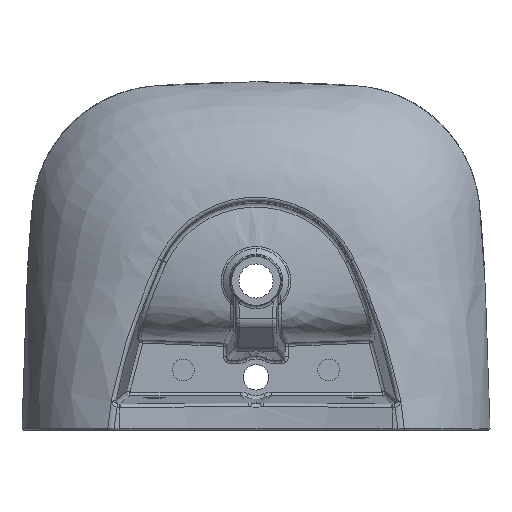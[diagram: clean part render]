
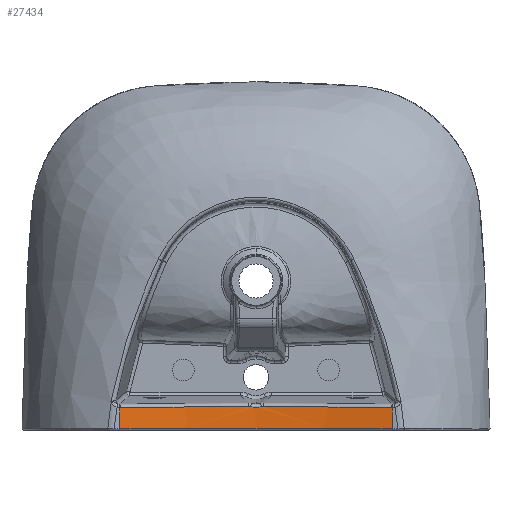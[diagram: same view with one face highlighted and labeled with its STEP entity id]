
A CAD part, front view. The second image highlights one B-rep face of the part: STEP entity #27434.
In plain terms, the highlighted cylindrical face has radius 953.69 mm (diameter 1907.38 mm), a partial arc.
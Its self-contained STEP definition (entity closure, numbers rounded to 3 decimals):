
#1739 = CARTESIAN_POINT ( 'NONE',  ( 9.143, -130.043, -172.836 ) ) ;
#2282 = CARTESIAN_POINT ( 'NONE',  ( 10.068, -130.053, -172.837 ) ) ;
#2714 =( BOUNDED_CURVE ( )  B_SPLINE_CURVE ( 3, ( #32044, #4303, #22928, #23516 ),
 .UNSPECIFIED., .F., .T. ) 
 B_SPLINE_CURVE_WITH_KNOTS ( ( 4, 4 ),
 ( 0.011, 0.197 ),
 .UNSPECIFIED. ) 
 CURVE ( )  GEOMETRIC_REPRESENTATION_ITEM ( )  RATIONAL_B_SPLINE_CURVE ( ( 1., 0.997, 0.997, 1. ) ) 
 REPRESENTATION_ITEM ( '' )  );
#2972 = EDGE_LOOP ( 'NONE', ( #4999, #37425, #39023, #32592, #21793, #16921, #32067, #32504, #19957, #27672 ) ) ;
#3002 = VERTEX_POINT ( 'NONE', #23669 ) ;
#4303 = CARTESIAN_POINT ( 'NONE',  ( -69.416, -130.68, -172.892 ) ) ;
#4353 = LINE ( 'NONE', #32287, #25258 ) ;
#4457 = DIRECTION ( 'NONE',  ( 0., 0., 1. ) ) ;
#4673 = EDGE_CURVE ( 'NONE', #21623, #23880, #11520, .T. ) ;
#4973 = CARTESIAN_POINT ( 'NONE',  ( 8.227, -130.035, -172.918 ) ) ;
#4999 = ORIENTED_EDGE ( 'NONE', *, *, #10121, .T. ) ;
#5095 = DIRECTION ( 'NONE',  ( 0., 0., -1. ) ) ;
#5171 = CARTESIAN_POINT ( 'NONE',  ( -186.654, -148.444, -174.454 ) ) ;
#5253 = B_SPLINE_CURVE_WITH_KNOTS ( 'NONE', 3,
 ( #5171, #29667, #17735, #39388 ),
 .UNSPECIFIED., .F., .F.,
 ( 4, 4 ),
 ( 0., 0. ),
 .UNSPECIFIED. ) ;
#7501 = CARTESIAN_POINT ( 'NONE',  ( 187.143, -148.542, -205.005 ) ) ;
#7741 = VERTEX_POINT ( 'NONE', #12158 ) ;
#7752 = FACE_OUTER_BOUND ( 'NONE', #2972, .T. ) ;
#8622 = CARTESIAN_POINT ( 'NONE',  ( 7.317, -130.028, -173.084 ) ) ;
#8623 = AXIS2_PLACEMENT_3D ( 'NONE', #23335, #32255, #29409 ) ;
#9655 = CARTESIAN_POINT ( 'NONE',  ( 7.317, -130.028, -173.084 ) ) ;
#10121 = EDGE_CURVE ( 'NONE', #3002, #16384, #4353, .T. ) ;
#11520 = LINE ( 'NONE', #7501, #16821 ) ;
#11620 = EDGE_CURVE ( 'NONE', #32940, #25877, #2714, .T. ) ;
#12158 = CARTESIAN_POINT ( 'NONE',  ( -7.317, -130.028, -173.084 ) ) ;
#12364 = CARTESIAN_POINT ( 'NONE',  ( 187.143, -148.542, -174.451 ) ) ;
#12419 = EDGE_CURVE ( 'NONE', #21846, #38950, #32743, .T. ) ;
#13255 = CARTESIAN_POINT ( 'NONE',  ( -8.227, -130.035, -172.918 ) ) ;
#13515 = B_SPLINE_CURVE_WITH_KNOTS ( 'NONE', 3,
 ( #31878, #13255, #25997, #34511 ),
 .UNSPECIFIED., .F., .F.,
 ( 4, 4 ),
 ( 0., 0.003 ),
 .UNSPECIFIED. ) ;
#13728 = CARTESIAN_POINT ( 'NONE',  ( 0., -129.991, -173.96 ) ) ;
#13928 = CARTESIAN_POINT ( 'NONE',  ( 7.317, -130.028, -173.084 ) ) ;
#14025 = CARTESIAN_POINT ( 'NONE',  ( 0., -1083.69, -203. ) ) ;
#15722 = CARTESIAN_POINT ( 'NONE',  ( 128.449, -136.828, -173.432 ) ) ;
#15996 = CARTESIAN_POINT ( 'NONE',  ( -10.068, -130.053, -172.837 ) ) ;
#16384 = VERTEX_POINT ( 'NONE', #31998 ) ;
#16708 = DIRECTION ( 'NONE',  ( 0., 0., -1. ) ) ;
#16821 = VECTOR ( 'NONE', #4457, 1000. ) ;
#16921 = ORIENTED_EDGE ( 'NONE', *, *, #35890, .T. ) ;
#17055 = CARTESIAN_POINT ( 'NONE',  ( 186.654, -148.444, -174.454 ) ) ;
#17735 = CARTESIAN_POINT ( 'NONE',  ( -186.98, -148.509, -174.456 ) ) ;
#18748 = CARTESIAN_POINT ( 'NONE',  ( 186.654, -148.444, -174.454 ) ) ;
#19957 = ORIENTED_EDGE ( 'NONE', *, *, #11620, .T. ) ;
#20280 = CARTESIAN_POINT ( 'NONE',  ( 187.143, -148.542, -174.451 ) ) ;
#20362 = CARTESIAN_POINT ( 'NONE',  ( 10.068, -130.053, -172.837 ) ) ;
#20533 = EDGE_CURVE ( 'NONE', #16384, #21623, #33750, .T. ) ;
#21623 = VERTEX_POINT ( 'NONE', #29825 ) ;
#21793 = ORIENTED_EDGE ( 'NONE', *, *, #12419, .T. ) ;
#21846 = VERTEX_POINT ( 'NONE', #28393 ) ;
#22748 = CYLINDRICAL_SURFACE ( 'NONE', #8623, 953.69 ) ;
#22928 = CARTESIAN_POINT ( 'NONE',  ( -128.449, -136.828, -173.432 ) ) ;
#23073 = EDGE_CURVE ( 'NONE', #23880, #21846, #35380, .T. ) ;
#23335 = CARTESIAN_POINT ( 'NONE',  ( 0., -1083.69, -205.005 ) ) ;
#23516 = CARTESIAN_POINT ( 'NONE',  ( -186.654, -148.444, -174.454 ) ) ;
#23669 = CARTESIAN_POINT ( 'NONE',  ( -187.143, -148.542, -174.451 ) ) ;
#23685 = B_SPLINE_CURVE_WITH_KNOTS ( 'NONE', 3,
 ( #13928, #38615, #13728, #29500, #26072 ),
 .UNSPECIFIED., .F., .F.,
 ( 4, 1, 4 ),
 ( 0., 0.007, 0.015 ),
 .UNSPECIFIED. ) ;
#23880 = VERTEX_POINT ( 'NONE', #12364 ) ;
#24748 = EDGE_CURVE ( 'NONE', #34933, #7741, #23685, .T. ) ;
#25258 = VECTOR ( 'NONE', #16708, 1000. ) ;
#25773 = CARTESIAN_POINT ( 'NONE',  ( -186.654, -148.444, -174.454 ) ) ;
#25877 = VERTEX_POINT ( 'NONE', #25773 ) ;
#25997 = CARTESIAN_POINT ( 'NONE',  ( -9.143, -130.043, -172.836 ) ) ;
#26072 = CARTESIAN_POINT ( 'NONE',  ( -7.317, -130.028, -173.084 ) ) ;
#27434 = ADVANCED_FACE ( 'NONE', ( #7752 ), #22748, .F. ) ;
#27672 = ORIENTED_EDGE ( 'NONE', *, *, #36105, .T. ) ;
#28393 = CARTESIAN_POINT ( 'NONE',  ( 186.654, -148.444, -174.454 ) ) ;
#28996 = CARTESIAN_POINT ( 'NONE',  ( 186.98, -148.509, -174.456 ) ) ;
#29409 = DIRECTION ( 'NONE',  ( 1., 0., 0. ) ) ;
#29500 = CARTESIAN_POINT ( 'NONE',  ( -4.878, -130.009, -173.527 ) ) ;
#29667 = CARTESIAN_POINT ( 'NONE',  ( -186.817, -148.477, -174.457 ) ) ;
#29825 = CARTESIAN_POINT ( 'NONE',  ( 187.143, -148.542, -203. ) ) ;
#30860 = B_SPLINE_CURVE_WITH_KNOTS ( 'NONE', 3,
 ( #20362, #1739, #4973, #8622 ),
 .UNSPECIFIED., .F., .F.,
 ( 4, 4 ),
 ( 0., 0.003 ),
 .UNSPECIFIED. ) ;
#31878 = CARTESIAN_POINT ( 'NONE',  ( -7.317, -130.028, -173.084 ) ) ;
#31998 = CARTESIAN_POINT ( 'NONE',  ( -187.143, -148.542, -203. ) ) ;
#32044 = CARTESIAN_POINT ( 'NONE',  ( -10.068, -130.053, -172.837 ) ) ;
#32067 = ORIENTED_EDGE ( 'NONE', *, *, #24748, .T. ) ;
#32255 = DIRECTION ( 'NONE',  ( 0., 0., 1. ) ) ;
#32287 = CARTESIAN_POINT ( 'NONE',  ( -187.143, -148.542, -205.005 ) ) ;
#32504 = ORIENTED_EDGE ( 'NONE', *, *, #33601, .T. ) ;
#32592 = ORIENTED_EDGE ( 'NONE', *, *, #23073, .T. ) ;
#32743 =( BOUNDED_CURVE ( )  B_SPLINE_CURVE ( 3, ( #18748, #15722, #39806, #36963 ),
 .UNSPECIFIED., .F., .T. ) 
 B_SPLINE_CURVE_WITH_KNOTS ( ( 4, 4 ),
 ( 6.086, 6.273 ),
 .UNSPECIFIED. ) 
 CURVE ( )  GEOMETRIC_REPRESENTATION_ITEM ( )  RATIONAL_B_SPLINE_CURVE ( ( 1., 0.997, 0.997, 1. ) ) 
 REPRESENTATION_ITEM ( '' )  );
#32940 = VERTEX_POINT ( 'NONE', #15996 ) ;
#33601 = EDGE_CURVE ( 'NONE', #7741, #32940, #13515, .T. ) ;
#33750 = CIRCLE ( 'NONE', #36981, 953.69 ) ;
#34511 = CARTESIAN_POINT ( 'NONE',  ( -10.068, -130.053, -172.837 ) ) ;
#34933 = VERTEX_POINT ( 'NONE', #9655 ) ;
#35380 = B_SPLINE_CURVE_WITH_KNOTS ( 'NONE', 3,
 ( #20280, #28996, #37911, #17055 ),
 .UNSPECIFIED., .F., .F.,
 ( 4, 4 ),
 ( 0., 0. ),
 .UNSPECIFIED. ) ;
#35890 = EDGE_CURVE ( 'NONE', #38950, #34933, #30860, .T. ) ;
#36105 = EDGE_CURVE ( 'NONE', #25877, #3002, #5253, .T. ) ;
#36963 = CARTESIAN_POINT ( 'NONE',  ( 10.068, -130.053, -172.837 ) ) ;
#36981 = AXIS2_PLACEMENT_3D ( 'NONE', #14025, #5095, #39114 ) ;
#37425 = ORIENTED_EDGE ( 'NONE', *, *, #20533, .T. ) ;
#37911 = CARTESIAN_POINT ( 'NONE',  ( 186.817, -148.477, -174.457 ) ) ;
#38615 = CARTESIAN_POINT ( 'NONE',  ( 4.878, -130.009, -173.527 ) ) ;
#38950 = VERTEX_POINT ( 'NONE', #2282 ) ;
#39023 = ORIENTED_EDGE ( 'NONE', *, *, #4673, .T. ) ;
#39114 = DIRECTION ( 'NONE',  ( -1., 0., 0. ) ) ;
#39388 = CARTESIAN_POINT ( 'NONE',  ( -187.143, -148.542, -174.451 ) ) ;
#39806 = CARTESIAN_POINT ( 'NONE',  ( 69.416, -130.68, -172.892 ) ) ;
